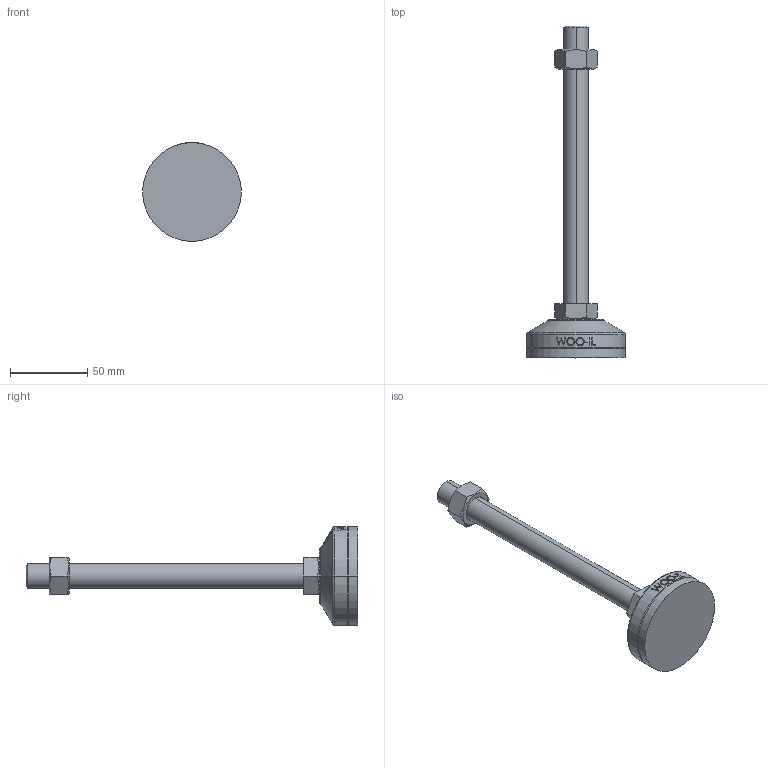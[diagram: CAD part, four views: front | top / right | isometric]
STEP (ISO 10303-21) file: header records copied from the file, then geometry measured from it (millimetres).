
FILE_DESCRIPTION (( 'STEP AP214' ), '1' );
FILE_NAME ('MFR64-M16-180.step', '2021-01-13T05:36:49', ( '' ), ( '' ), 'SwSTEP 2.0', 'SolidWorks 2019', '' );
FILE_SCHEMA (( 'AUTOMOTIVE_DESIGN' ));
Length unit declared in the file: millimetre
Products named in the file (2): MFR64-M16-180
Bounding box: 64 x 215 x 64 mm (x, y, z)
Volume: 113669.8 mm3; surface area: 29464.7 mm2
Topology: 4 solids, 4 shells, 103 faces, 235 edges, 150 vertices
Faces by surface type: plane 49, cylinder 18, bspline 16, cone 14, torus 6
Entity records: 4393 total; most frequent: CARTESIAN_POINT 2120, ORIENTED_EDGE 470, DIRECTION 417, EDGE_CURVE 235, AXIS2_PLACEMENT_3D 159, VERTEX_POINT 150, EDGE_LOOP 115, FACE_OUTER_BOUND 103
